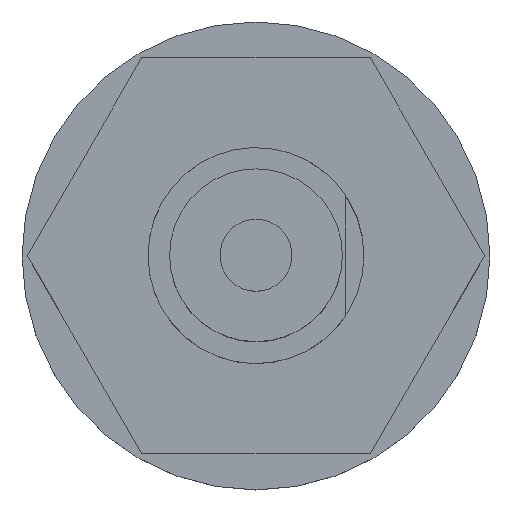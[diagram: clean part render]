
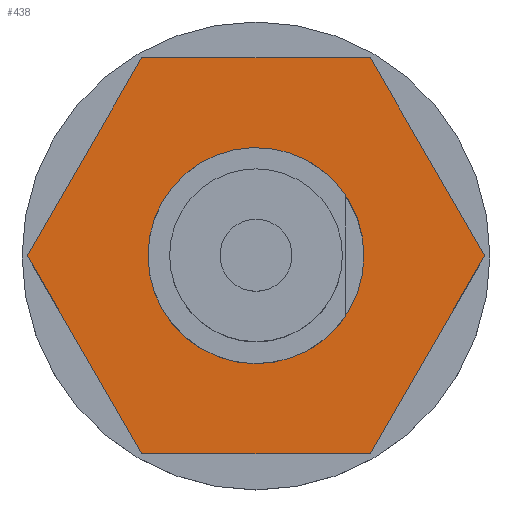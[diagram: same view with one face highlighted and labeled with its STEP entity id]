
A CAD part, top view. The second image highlights one B-rep face of the part: STEP entity #438.
In plain terms, the highlighted planar face has unit normal (0, 0, 1) as drawn and (-1, 0, 0) by its records, which use the part's own axes.
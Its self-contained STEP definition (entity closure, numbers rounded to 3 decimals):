
#157 = DIRECTION ( 'NONE',  ( 0., 0., 1. ) ) ;
#158 = DIRECTION ( 'NONE',  ( -1., 0., 0. ) ) ;
#159 = CARTESIAN_POINT ( 'NONE',  ( -8.9, 0., 0. ) ) ;
#160 = AXIS2_PLACEMENT_3D ( 'NONE', #159, #158, #157 ) ;
#161 = CIRCLE ( 'NONE', #160, 1.5 ) ;
#312 = EDGE_CURVE ( 'NONE', #449, #451, #969, .T. ) ;
#313 = ORIENTED_EDGE ( 'NONE', *, *, #314, .T. ) ;
#314 = EDGE_CURVE ( 'NONE', #451, #315, #965, .T. ) ;
#315 = VERTEX_POINT ( 'NONE', #961 ) ;
#406 = EDGE_CURVE ( 'NONE', #407, #408, #757, .T. ) ;
#407 = VERTEX_POINT ( 'NONE', #753 ) ;
#408 = VERTEX_POINT ( 'NONE', #752 ) ;
#417 = EDGE_CURVE ( 'NONE', #315, #442, #929, .T. ) ;
#438 = ADVANCED_FACE ( 'NONE', ( #1093, #1095 ), #1094, .F. ) ;
#439 = EDGE_LOOP ( 'NONE', ( #440, #444, #447, #450, #313, #693 ) ) ;
#440 = ORIENTED_EDGE ( 'NONE', *, *, #441, .T. ) ;
#441 = EDGE_CURVE ( 'NONE', #442, #443, #1133, .T. ) ;
#442 = VERTEX_POINT ( 'NONE', #1129 ) ;
#443 = VERTEX_POINT ( 'NONE', #1128 ) ;
#444 = ORIENTED_EDGE ( 'NONE', *, *, #445, .T. ) ;
#445 = EDGE_CURVE ( 'NONE', #443, #446, #1127, .T. ) ;
#446 = VERTEX_POINT ( 'NONE', #1123 ) ;
#447 = ORIENTED_EDGE ( 'NONE', *, *, #448, .T. ) ;
#448 = EDGE_CURVE ( 'NONE', #446, #449, #1122, .T. ) ;
#449 = VERTEX_POINT ( 'NONE', #1118 ) ;
#450 = ORIENTED_EDGE ( 'NONE', *, *, #312, .T. ) ;
#451 = VERTEX_POINT ( 'NONE', #1117 ) ;
#623 = EDGE_CURVE ( 'NONE', #408, #407, #161, .T. ) ;
#634 = ORIENTED_EDGE ( 'NONE', *, *, #623, .F. ) ;
#693 = ORIENTED_EDGE ( 'NONE', *, *, #417, .T. ) ;
#694 = EDGE_LOOP ( 'NONE', ( #700, #634 ) ) ;
#700 = ORIENTED_EDGE ( 'NONE', *, *, #406, .F. ) ;
#752 = CARTESIAN_POINT ( 'NONE',  ( -8.9, 0., 1.5 ) ) ;
#753 = CARTESIAN_POINT ( 'NONE',  ( -8.9, 0., -1.5 ) ) ;
#754 = DIRECTION ( 'NONE',  ( 0., 0., 1. ) ) ;
#755 = DIRECTION ( 'NONE',  ( -1., 0., 0. ) ) ;
#756 = AXIS2_PLACEMENT_3D ( 'NONE', #761, #755, #754 ) ;
#757 = CIRCLE ( 'NONE', #756, 1.5 ) ;
#761 = CARTESIAN_POINT ( 'NONE',  ( -8.9, 0., 0. ) ) ;
#926 = DIRECTION ( 'NONE',  ( 0., 0., -1. ) ) ;
#927 = VECTOR ( 'NONE', #926, 1000. ) ;
#928 = CARTESIAN_POINT ( 'NONE',  ( -8.9, 2.75, 1.588 ) ) ;
#929 = LINE ( 'NONE', #928, #927 ) ;
#961 = CARTESIAN_POINT ( 'NONE',  ( -8.9, 2.75, 1.588 ) ) ;
#962 = DIRECTION ( 'NONE',  ( 0., 0.866, -0.5 ) ) ;
#963 = VECTOR ( 'NONE', #962, 1000. ) ;
#964 = CARTESIAN_POINT ( 'NONE',  ( -8.9, 0., 3.175 ) ) ;
#965 = LINE ( 'NONE', #964, #963 ) ;
#966 = DIRECTION ( 'NONE',  ( 0., 0.866, 0.5 ) ) ;
#967 = VECTOR ( 'NONE', #966, 1000. ) ;
#968 = CARTESIAN_POINT ( 'NONE',  ( -8.9, -2.75, 1.588 ) ) ;
#969 = LINE ( 'NONE', #968, #967 ) ;
#1093 = FACE_OUTER_BOUND ( 'NONE', #439, .T. ) ;
#1094 = PLANE ( 'NONE',  #1137 ) ;
#1095 = FACE_BOUND ( 'NONE', #694, .T. ) ;
#1117 = CARTESIAN_POINT ( 'NONE',  ( -8.9, 0., 3.175 ) ) ;
#1118 = CARTESIAN_POINT ( 'NONE',  ( -8.9, -2.75, 1.588 ) ) ;
#1119 = DIRECTION ( 'NONE',  ( 0., 0., 1. ) ) ;
#1120 = VECTOR ( 'NONE', #1119, 1000. ) ;
#1121 = CARTESIAN_POINT ( 'NONE',  ( -8.9, -2.75, -1.588 ) ) ;
#1122 = LINE ( 'NONE', #1121, #1120 ) ;
#1123 = CARTESIAN_POINT ( 'NONE',  ( -8.9, -2.75, -1.588 ) ) ;
#1124 = DIRECTION ( 'NONE',  ( 0., -0.866, 0.5 ) ) ;
#1125 = VECTOR ( 'NONE', #1124, 1000. ) ;
#1126 = CARTESIAN_POINT ( 'NONE',  ( -8.9, 0., -3.175 ) ) ;
#1127 = LINE ( 'NONE', #1126, #1125 ) ;
#1128 = CARTESIAN_POINT ( 'NONE',  ( -8.9, 0., -3.175 ) ) ;
#1129 = CARTESIAN_POINT ( 'NONE',  ( -8.9, 2.75, -1.588 ) ) ;
#1130 = DIRECTION ( 'NONE',  ( 0., -0.866, -0.5 ) ) ;
#1131 = VECTOR ( 'NONE', #1130, 1000. ) ;
#1132 = CARTESIAN_POINT ( 'NONE',  ( -8.9, 2.75, -1.588 ) ) ;
#1133 = LINE ( 'NONE', #1132, #1131 ) ;
#1134 = DIRECTION ( 'NONE',  ( 0., 0., -1. ) ) ;
#1135 = DIRECTION ( 'NONE',  ( 1., 0., 0. ) ) ;
#1136 = CARTESIAN_POINT ( 'NONE',  ( -8.9, 5.5, 0. ) ) ;
#1137 = AXIS2_PLACEMENT_3D ( 'NONE', #1136, #1135, #1134 ) ;
